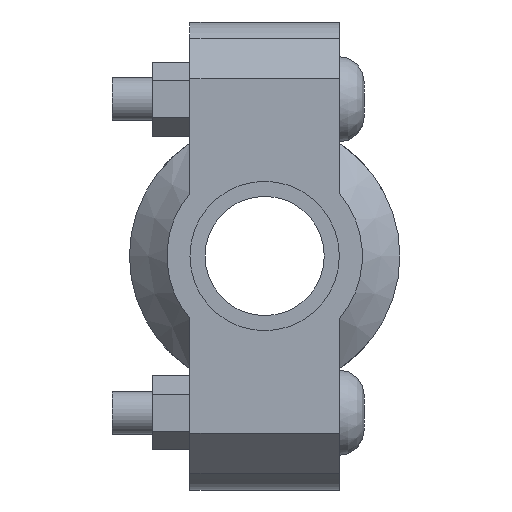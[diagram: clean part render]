
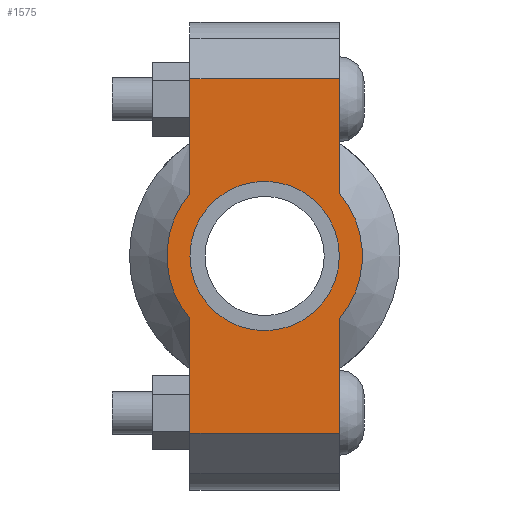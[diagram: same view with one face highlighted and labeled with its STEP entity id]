
A CAD part, left-side view. The second image highlights one B-rep face of the part: STEP entity #1575.
In plain terms, the highlighted planar face has unit normal (-1, 0, 0) as drawn and (0, 0, 1) by its records, which use the part's own axes.
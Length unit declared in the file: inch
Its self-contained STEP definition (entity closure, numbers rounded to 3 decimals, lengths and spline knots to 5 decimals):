
#186=LINE('',#2707,#281);
#201=LINE('',#2766,#296);
#209=LINE('',#2796,#304);
#211=LINE('',#2799,#306);
#212=LINE('',#2804,#307);
#213=LINE('',#2805,#308);
#281=VECTOR('',#2181,0.3937);
#296=VECTOR('',#2216,0.3937);
#304=VECTOR('',#2236,0.3937);
#306=VECTOR('',#2240,0.3937);
#307=VECTOR('',#2245,0.3937);
#308=VECTOR('',#2246,0.3937);
#368=FACE_BOUND('',#527,.T.);
#428=FACE_OUTER_BOUND('',#526,.T.);
#526=EDGE_LOOP('',(#1270,#1271,#1272,#1273,#1274,#1275,#1276,#1277));
#527=EDGE_LOOP('',(#1278));
#632=CIRCLE('',#1838,0.86);
#633=CIRCLE('',#1839,0.86);
#634=CIRCLE('',#1840,0.6575);
#741=VERTEX_POINT('',#2704);
#742=VERTEX_POINT('',#2706);
#763=VERTEX_POINT('',#2761);
#764=VERTEX_POINT('',#2765);
#773=VERTEX_POINT('',#2791);
#774=VERTEX_POINT('',#2795);
#775=VERTEX_POINT('',#2801);
#776=VERTEX_POINT('',#2803);
#777=VERTEX_POINT('',#2807);
#911=EDGE_CURVE('',#742,#741,#186,.T.);
#936=EDGE_CURVE('',#764,#763,#201,.T.);
#949=EDGE_CURVE('',#774,#773,#209,.T.);
#951=EDGE_CURVE('',#774,#741,#211,.T.);
#952=EDGE_CURVE('',#773,#775,#632,.T.);
#953=EDGE_CURVE('',#775,#776,#212,.T.);
#954=EDGE_CURVE('',#764,#776,#213,.T.);
#955=EDGE_CURVE('',#763,#742,#633,.T.);
#956=EDGE_CURVE('',#777,#777,#634,.T.);
#1270=ORIENTED_EDGE('',*,*,#951,.F.);
#1271=ORIENTED_EDGE('',*,*,#949,.T.);
#1272=ORIENTED_EDGE('',*,*,#952,.T.);
#1273=ORIENTED_EDGE('',*,*,#953,.T.);
#1274=ORIENTED_EDGE('',*,*,#954,.F.);
#1275=ORIENTED_EDGE('',*,*,#936,.T.);
#1276=ORIENTED_EDGE('',*,*,#955,.T.);
#1277=ORIENTED_EDGE('',*,*,#911,.T.);
#1278=ORIENTED_EDGE('',*,*,#956,.T.);
#1427=PLANE('',#1837);
#1575=ADVANCED_FACE('',(#428,#368),#1427,.T.);
#1837=AXIS2_PLACEMENT_3D('',#2800,#2241,#2242);
#1838=AXIS2_PLACEMENT_3D('',#2802,#2243,#2244);
#1839=AXIS2_PLACEMENT_3D('',#2806,#2247,#2248);
#1840=AXIS2_PLACEMENT_3D('',#2808,#2249,#2250);
#2181=DIRECTION('',(1.,0.,0.));
#2216=DIRECTION('',(1.,0.,0.));
#2236=DIRECTION('',(-1.,0.,0.));
#2240=DIRECTION('',(0.,-1.,0.));
#2241=DIRECTION('center_axis',(0.,0.,1.));
#2242=DIRECTION('ref_axis',(-1.,0.,0.));
#2243=DIRECTION('center_axis',(0.,0.,1.));
#2244=DIRECTION('ref_axis',(1.,0.,0.));
#2245=DIRECTION('',(-1.,0.,0.));
#2246=DIRECTION('',(0.,1.,0.));
#2247=DIRECTION('center_axis',(0.,0.,1.));
#2248=DIRECTION('ref_axis',(1.,0.,0.));
#2249=DIRECTION('center_axis',(0.,0.,-1.));
#2250=DIRECTION('ref_axis',(1.,0.,0.));
#2704=CARTESIAN_POINT('',(1.56,-0.6575,0.875));
#2706=CARTESIAN_POINT('',(0.55434,-0.6575,0.875));
#2707=CARTESIAN_POINT('',(-2.06,-0.6575,0.875));
#2761=CARTESIAN_POINT('',(-0.55434,-0.6575,0.875));
#2765=CARTESIAN_POINT('',(-1.56,-0.6575,0.875));
#2766=CARTESIAN_POINT('',(-2.06,-0.6575,0.875));
#2791=CARTESIAN_POINT('',(0.55434,0.6575,0.875));
#2795=CARTESIAN_POINT('',(1.56,0.6575,0.875));
#2796=CARTESIAN_POINT('',(2.06,0.6575,0.875));
#2799=CARTESIAN_POINT('',(1.56,-0.32875,0.875));
#2800=CARTESIAN_POINT('Origin',(0.,0.,
0.875));
#2801=CARTESIAN_POINT('',(-0.55434,0.6575,0.875));
#2802=CARTESIAN_POINT('Origin',(0.,0.,0.875));
#2803=CARTESIAN_POINT('',(-1.56,0.6575,0.875));
#2804=CARTESIAN_POINT('',(2.06,0.6575,0.875));
#2805=CARTESIAN_POINT('',(-1.56,0.32875,0.875));
#2806=CARTESIAN_POINT('Origin',(0.,0.,0.875));
#2807=CARTESIAN_POINT('',(-0.6575,0.,0.875));
#2808=CARTESIAN_POINT('Origin',(0.,0.,0.875));
